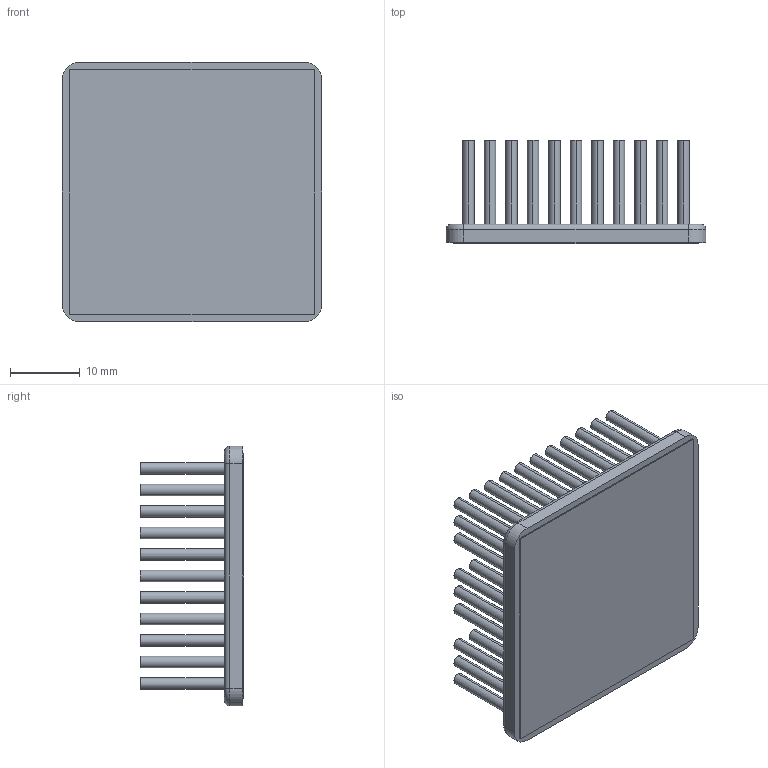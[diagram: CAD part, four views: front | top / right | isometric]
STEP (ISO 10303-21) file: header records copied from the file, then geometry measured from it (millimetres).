
FILE_DESCRIPTION (( 'STEP AP214' ), '1' );
FILE_NAME ('INM37.5002-15P-2.6.STEP', '2023-02-21T15:42:17', ( '' ), ( '' ), 'SwSTEP 2.0', 'SolidWorks 2020', '' );
FILE_SCHEMA (( 'AUTOMOTIVE_DESIGN' ));
Length unit declared in the file: inch
Products named in the file (1): INM37.5002-15P-2.6
Bounding box: 37.1 x 14.73 x 37.1 mm (x, y, z)
Volume: 6605 mm3; surface area: 12569.9 mm2
Topology: 2 solids, 2 shells, 363 faces, 730 edges, 484 vertices
Faces by surface type: cylinder 234, plane 125, torus 4
Entity records: 14462 total; most frequent: DIRECTION 1930, CARTESIAN_POINT 1578, ORIENTED_EDGE 1460, AXIS2_PLACEMENT_3D 836, EDGE_CURVE 730, VERTEX_POINT 484, EDGE_LOOP 476, CIRCLE 472
